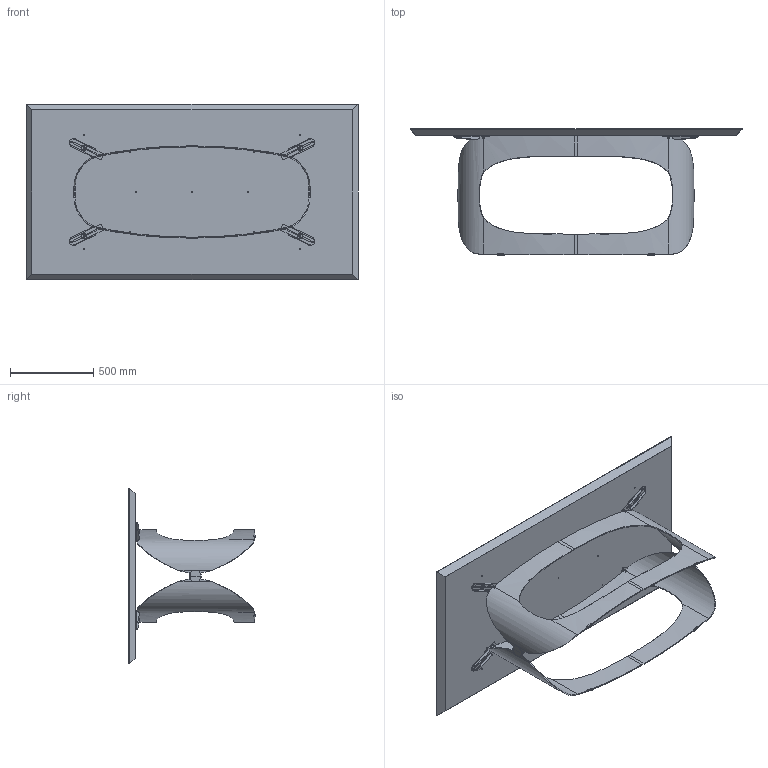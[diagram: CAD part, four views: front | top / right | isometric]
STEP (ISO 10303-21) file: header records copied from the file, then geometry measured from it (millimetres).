
FILE_DESCRIPTION (( 'STEP AP203' ), '1' );
FILE_NAME ('PO21W.STEP', '2024-08-06T14:07:37', ( '' ), ( '' ), 'SwSTEP 2.0', 'SolidWorks 2022', '' );
FILE_SCHEMA (( 'CONFIG_CONTROL_DESIGN' ));
Length unit declared in the file: millimetre
Products named in the file (15): PO21W; M8xXXmm_hex_M8X16mm; POL000000_03B-00-POLIFEMO FREGIO; POLPIA000V01-00-POLIFEMO PIASTRA X FISSAGGIO TOP LEG-MAR; POL000000_03-01-POLIFEMO FREGIO COMPLETO; GRANO M8X35_barra; POL000000_03A-01-POLIFEMO FREGIO; POL000000_01-01-MEZZA BASE POLIFEMO X PIANI 200-240_POL000000_03-00-MEZZA BASE PLIFEMO L160; W2XCMXX-00-Piani Rettangolari in legno_2000 x 1060; POL000000_02-02-CILINDRO DI FISSAGGIO Ø12X15 M8; PVC profilo Polifemo 9x8; rondella M8_8X32; Vite Legno 4xXX testa piana_S4.5x25; POL000000-00-POLIFEMO BASE X PIANI 200-240_POL000000-00-POLIFEMO BASE L160; nut_M8_M8
Assembly tree (41 placements, depth 3):
  PO21W
    POL000000-00-POLIFEMO BASE X PIANI 200-240_POL000000-00-POLIFEMO BASE L160
      POL000000_01-01-MEZZA BASE POLIFEMO X PIANI 200-240_POL000000_03-00-MEZZA BASE PLIFEMO L160  x2
      POL000000_02-02-CILINDRO DI FISSAGGIO Ø12X15 M8  x4
    POL000000_03-01-POLIFEMO FREGIO COMPLETO  x2
      POL000000_03A-01-POLIFEMO FREGIO
      POL000000_03B-00-POLIFEMO FREGIO
    PVC profilo Polifemo 9x8  x4
    POLPIA000V01-00-POLIFEMO PIASTRA X FISSAGGIO TOP LEG-MAR  x4
    M8xXXmm_hex_M8X16mm  x4
    GRANO M8X35_barra  x4
    nut_M8_M8  x4
    rondella M8_8X32  x4
    Vite Legno 4xXX testa piana_S4.5x25  x4
    W2XCMXX-00-Piani Rettangolari in legno_2000 x 1060
Bounding box: 2000 x 759.97 x 1060 mm (x, y, z)
Volume: 84280333.1 mm3; surface area: 7005569.1 mm2
Topology: 41 solids, 41 shells, 1358 faces, 3314 edges, 1957 vertices
Faces by surface type: cylinder 452, plane 412, torus 180, bspline 128, cone 122, sphere 64
Entity records: 26904 total; most frequent: CARTESIAN_POINT 14547, DIRECTION 2108, ORIENTED_EDGE 2080, EDGE_CURVE 1040, AXIS2_PLACEMENT_3D 844, VERTEX_POINT 633, EDGE_LOOP 479, ADVANCED_FACE 448
